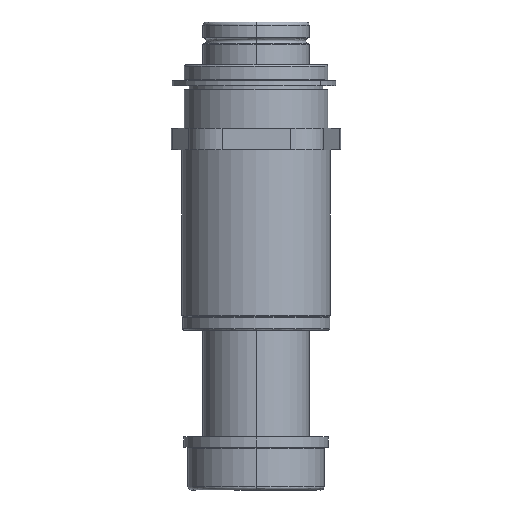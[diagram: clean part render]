
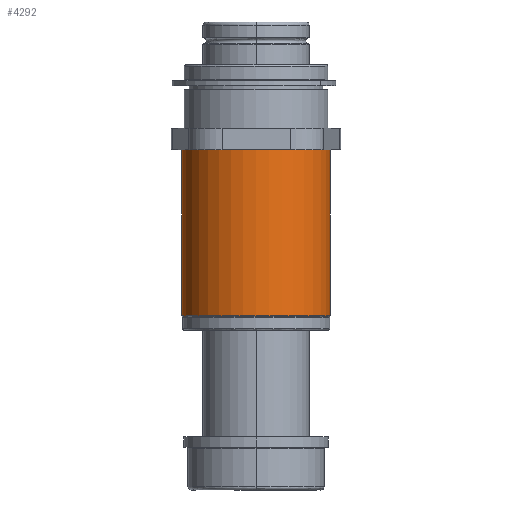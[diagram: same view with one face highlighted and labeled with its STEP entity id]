
A CAD part, left-side view. The second image highlights one B-rep face of the part: STEP entity #4292.
In plain terms, the highlighted cylindrical face has radius 22.216 mm (diameter 44.432 mm), a partial arc.
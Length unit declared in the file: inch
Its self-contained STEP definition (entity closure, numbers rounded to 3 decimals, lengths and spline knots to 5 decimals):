
#177 = CARTESIAN_POINT ( 'NONE',  ( 0., -1., -0.87465 ) ) ;
#262 = CARTESIAN_POINT ( 'NONE',  ( 0., -2.95, 0. ) ) ;
#413 = DIRECTION ( 'NONE',  ( 0., 1., 0. ) ) ;
#523 = EDGE_CURVE ( 'NONE', #3761, #4882, #5025, .T. ) ;
#761 = CARTESIAN_POINT ( 'NONE',  ( 0., -3.125, 0. ) ) ;
#766 = VERTEX_POINT ( 'NONE', #1176 ) ;
#866 = EDGE_CURVE ( 'NONE', #4882, #3300, #4839, .T. ) ;
#1055 = FACE_OUTER_BOUND ( 'NONE', #2402, .T. ) ;
#1086 = ORIENTED_EDGE ( 'NONE', *, *, #5122, .T. ) ;
#1109 = AXIS2_PLACEMENT_3D ( 'NONE', #262, #1785, #3797 ) ;
#1111 = DIRECTION ( 'NONE',  ( 0., 1., 0. ) ) ;
#1166 = DIRECTION ( 'NONE',  ( 0., 0., 1. ) ) ;
#1176 = CARTESIAN_POINT ( 'NONE',  ( 0., -1., 0.87465 ) ) ;
#1180 = CIRCLE ( 'NONE', #2968, 0.87465 ) ;
#1265 = ORIENTED_EDGE ( 'NONE', *, *, #4496, .T. ) ;
#1282 = AXIS2_PLACEMENT_3D ( 'NONE', #761, #413, #1166 ) ;
#1704 = DIRECTION ( 'NONE',  ( 0., 0., 1. ) ) ;
#1785 = DIRECTION ( 'NONE',  ( 0., -1., 0. ) ) ;
#1866 = ORIENTED_EDGE ( 'NONE', *, *, #523, .F. ) ;
#2402 = EDGE_LOOP ( 'NONE', ( #4451, #1866, #1086, #1265 ) ) ;
#2618 = CYLINDRICAL_SURFACE ( 'NONE', #1282, 0.87465 ) ;
#2932 = VECTOR ( 'NONE', #1111, 39.37008 ) ;
#2968 = AXIS2_PLACEMENT_3D ( 'NONE', #4164, #3343, #1704 ) ;
#3227 = CARTESIAN_POINT ( 'NONE',  ( 0., -2.95, -0.87465 ) ) ;
#3300 = VERTEX_POINT ( 'NONE', #177 ) ;
#3343 = DIRECTION ( 'NONE',  ( 0., -1., 0. ) ) ;
#3367 = VECTOR ( 'NONE', #4907, 39.37008 ) ;
#3588 = CARTESIAN_POINT ( 'NONE',  ( 0., -2.95, 0.87465 ) ) ;
#3761 = VERTEX_POINT ( 'NONE', #3588 ) ;
#3797 = DIRECTION ( 'NONE',  ( 0., 0., 1. ) ) ;
#4036 = LINE ( 'NONE', #4649, #2932 ) ;
#4164 = CARTESIAN_POINT ( 'NONE',  ( 0., -1., 0. ) ) ;
#4292 = ADVANCED_FACE ( 'NONE', ( #1055 ), #2618, .T. ) ;
#4451 = ORIENTED_EDGE ( 'NONE', *, *, #866, .F. ) ;
#4466 = CARTESIAN_POINT ( 'NONE',  ( 0., -3.125, -0.87465 ) ) ;
#4496 = EDGE_CURVE ( 'NONE', #766, #3300, #1180, .T. ) ;
#4649 = CARTESIAN_POINT ( 'NONE',  ( 0., -3.125, 0.87465 ) ) ;
#4839 = LINE ( 'NONE', #4466, #3367 ) ;
#4882 = VERTEX_POINT ( 'NONE', #3227 ) ;
#4907 = DIRECTION ( 'NONE',  ( 0., 1., 0. ) ) ;
#5025 = CIRCLE ( 'NONE', #1109, 0.87465 ) ;
#5122 = EDGE_CURVE ( 'NONE', #3761, #766, #4036, .T. ) ;
